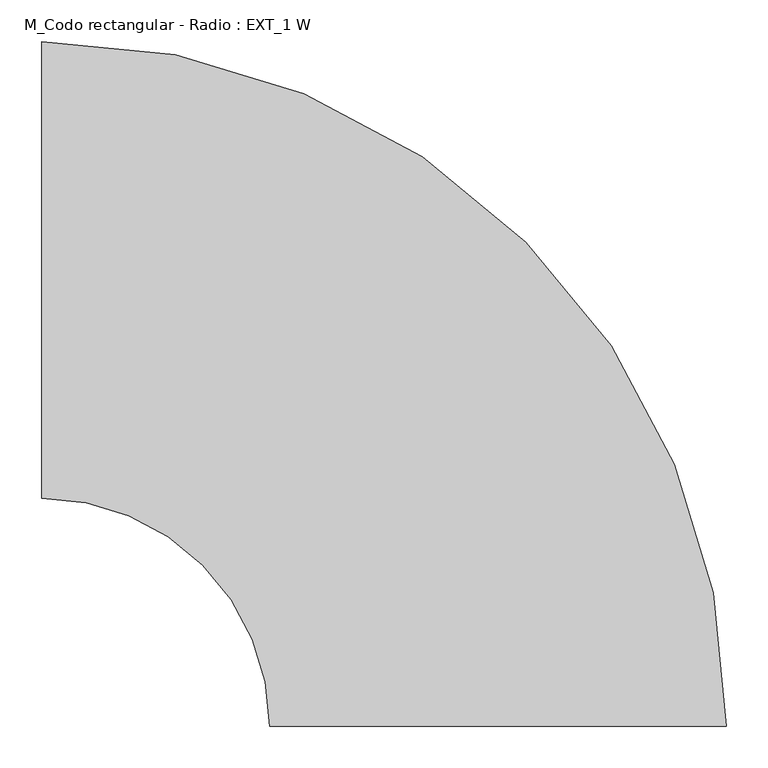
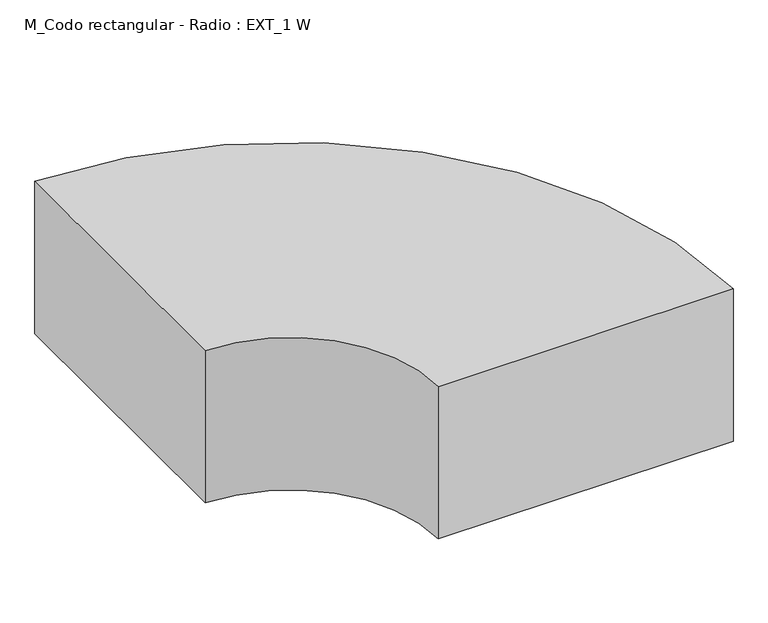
"""IFC4 building model written with IfcOpenShell, lengths in millimetres: duct fitting geometry, M_Codo rectangular - Radio : EXT_1 W."""

from ifc_helpers import new_model, si_unit, point, frame, frame_2d, origin, place, context, project, spatial, polyline, circle_curve, trimmed, segment, composite_curve, outline, extrude, source, transform, mapped, element, save


def m_codo_rectangular_radio_ext_1_w_5d442bab(model_context):
    return source(origin(), model_context, "Body", "SweptSolid", [
        extrude(outline(composite_curve([segment(polyline([(275.0, -550.0), (-275.0, -550.0)]), True, "CONTINUOUS"), segment(trimmed(circle_curve(frame_2d((-550.0, -550.0)), 275.0), [point((-275.0, -550.0))], [point((-550.0, -275.0))], True, "CARTESIAN"), True, "CONTINUOUS"), segment(polyline([(-550.0, -275.0), (-550.0, 275.0)]), True, "CONTINUOUS"), segment(trimmed(circle_curve(frame_2d((-550.0, -550.0)), 825.0), [point((-550.0, 275.0))], [point((275.0, -550.0))], False, "CARTESIAN"), True, "CONTINUOUS")], self_intersect=False)), frame((0.0, 0.0, -150.0), z_axis=(0.0, 0.0, 1.0), x_axis=(1.0, 0.0, 0.0)), (0.0, 0.0, 1.0), 300.0),
    ])


if __name__ == "__main__":
    model = new_model("IFC4")
    model_context = context("Model", 3, world=origin())
    ifc_project = project(units=[si_unit("LENGTHUNIT", "METRE", prefix="MILLI")], contexts=[model_context])
    site = spatial("IfcSite", under=ifc_project)
    building = spatial("IfcBuilding", under=site)
    placement = place(None, origin())
    m_codo_rectangular_radio_ext_1_w_shape = m_codo_rectangular_radio_ext_1_w_5d442bab(model_context)
    element("IfcDuctFitting", 1, ObjectType="M_Codo rectangular - Radio : EXT_1 W", at=placement, inside=building, context=model_context, shape_type="MappedRepresentation", body=[
        mapped(m_codo_rectangular_radio_ext_1_w_shape, transform((0.0, 0.0, 0.0), x_axis=(1.0, 0.0, 0.0), y_axis=(0.0, 1.0, 0.0), z_axis=(0.0, 0.0, 1.0))),
    ])
    save(model, "model.ifc")
